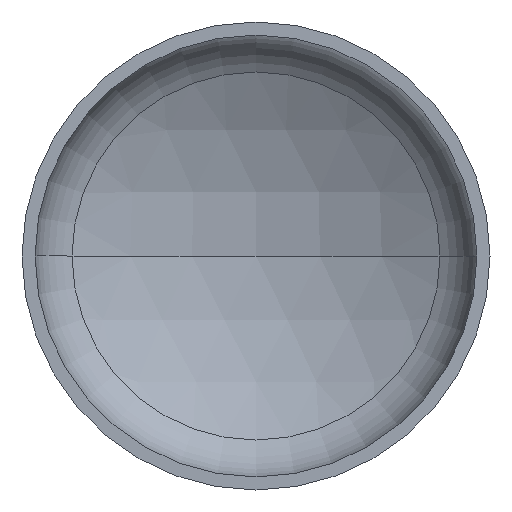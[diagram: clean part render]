
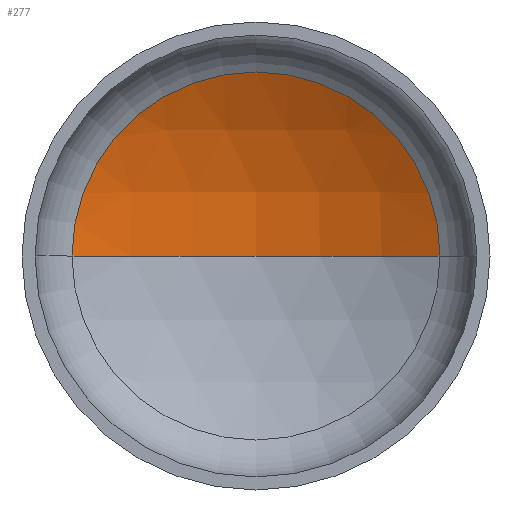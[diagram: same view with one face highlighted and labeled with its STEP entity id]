
A CAD part, front view. The second image highlights one B-rep face of the part: STEP entity #277.
In plain terms, the highlighted spherical face has radius 1600 mm.
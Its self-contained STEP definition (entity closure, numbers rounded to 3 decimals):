
#8 = VERTEX_POINT ( 'NONE', #353 ) ;
#20 = DIRECTION ( 'NONE',  ( 0., 0., -1. ) ) ;
#23 = EDGE_LOOP ( 'NONE', ( #90, #84, #39 ) ) ;
#39 = ORIENTED_EDGE ( 'NONE', *, *, #212, .T. ) ;
#42 = VERTEX_POINT ( 'NONE', #262 ) ;
#77 = AXIS2_PLACEMENT_3D ( 'NONE', #389, #20, #394 ) ;
#84 = ORIENTED_EDGE ( 'NONE', *, *, #215, .T. ) ;
#85 = VERTEX_POINT ( 'NONE', #239 ) ;
#90 = ORIENTED_EDGE ( 'NONE', *, *, #218, .F. ) ;
#119 = AXIS2_PLACEMENT_3D ( 'NONE', #254, #251, #186 ) ;
#125 = AXIS2_PLACEMENT_3D ( 'NONE', #268, #288, #286 ) ;
#126 = AXIS2_PLACEMENT_3D ( 'NONE', #232, #230, #231 ) ;
#130 = CIRCLE ( 'NONE', #119, 1600. ) ;
#186 = DIRECTION ( 'NONE',  ( 1., 0., 0. ) ) ;
#209 = FACE_OUTER_BOUND ( 'NONE', #23, .T. ) ;
#212 = EDGE_CURVE ( 'NONE', #42, #85, #348, .T. ) ;
#215 = EDGE_CURVE ( 'NONE', #8, #42, #289, .T. ) ;
#218 = EDGE_CURVE ( 'NONE', #8, #85, #130, .T. ) ;
#230 = DIRECTION ( 'NONE',  ( 0., -1., 0. ) ) ;
#231 = DIRECTION ( 'NONE',  ( 1., 0., 0. ) ) ;
#232 = CARTESIAN_POINT ( 'NONE',  ( 0., 389.977, 0. ) ) ;
#239 = CARTESIAN_POINT ( 'NONE',  ( -786.357, 389.977, 0. ) ) ;
#251 = DIRECTION ( 'NONE',  ( 0., 0., 1. ) ) ;
#254 = CARTESIAN_POINT ( 'NONE',  ( 0., -1003.452, 0. ) ) ;
#262 = CARTESIAN_POINT ( 'NONE',  ( 786.357, 389.977, 0. ) ) ;
#268 = CARTESIAN_POINT ( 'NONE',  ( 0., -1003.452, 0. ) ) ;
#277 = ADVANCED_FACE ( 'NONE', ( #209 ), #283, .F. ) ;
#283 = SPHERICAL_SURFACE ( 'NONE', #77, 1600. ) ;
#286 = DIRECTION ( 'NONE',  ( -1., 0., 0. ) ) ;
#288 = DIRECTION ( 'NONE',  ( 0., 0., -1. ) ) ;
#289 = CIRCLE ( 'NONE', #125, 1600. ) ;
#348 = CIRCLE ( 'NONE', #126, 786.357 ) ;
#353 = CARTESIAN_POINT ( 'NONE',  ( 0., 596.548, 0. ) ) ;
#389 = CARTESIAN_POINT ( 'NONE',  ( 0., -1003.452, 0. ) ) ;
#394 = DIRECTION ( 'NONE',  ( -1., 0., 0. ) ) ;
